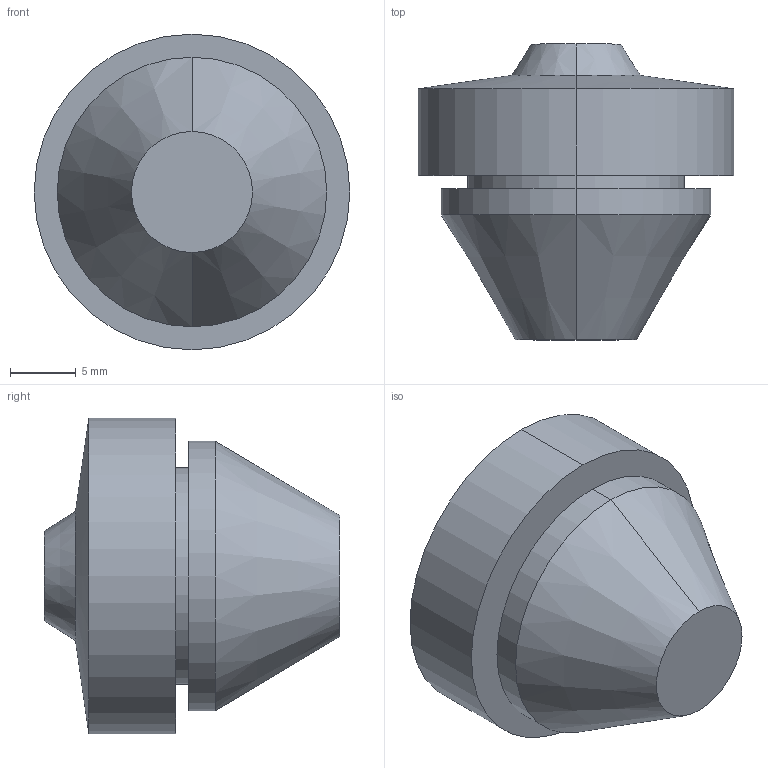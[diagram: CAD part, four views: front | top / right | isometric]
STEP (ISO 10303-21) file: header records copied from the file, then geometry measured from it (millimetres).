
FILE_DESCRIPTION (( 'STEP AP203' ), '1' );
FILE_NAME ('100726.STEP', '2012-10-29T10:20:03', ( 'Joni' ), ( 'Hewlett-Packard Company' ), 'SwSTEP 2.0', 'SolidWorks 2012', '' );
FILE_SCHEMA (( 'CONFIG_CONTROL_DESIGN' ));
Length unit declared in the file: millimetre
Products named in the file (1): 100726
Bounding box: 24 x 22.5 x 24 mm (x, y, z)
Volume: 5957.9 mm3; surface area: 2106.1 mm2
Topology: 1 solids, 1 shells, 16 faces, 30 edges, 18 vertices
Faces by surface type: cone 6, cylinder 6, plane 4
Entity records: 481 total; most frequent: DIRECTION 82, CARTESIAN_POINT 65, ORIENTED_EDGE 60, AXIS2_PLACEMENT_3D 35, EDGE_CURVE 30, CIRCLE 18, EDGE_LOOP 18, VERTEX_POINT 18
